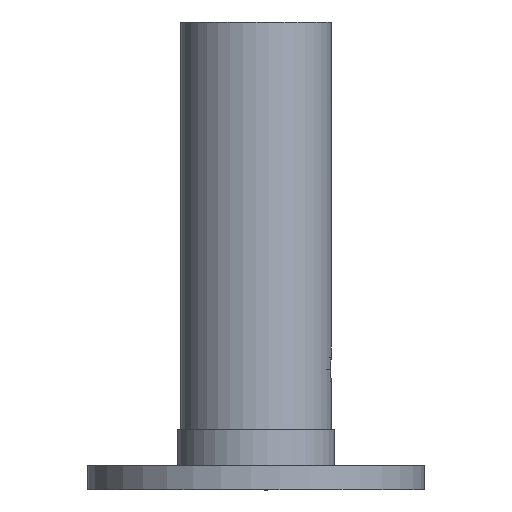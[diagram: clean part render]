
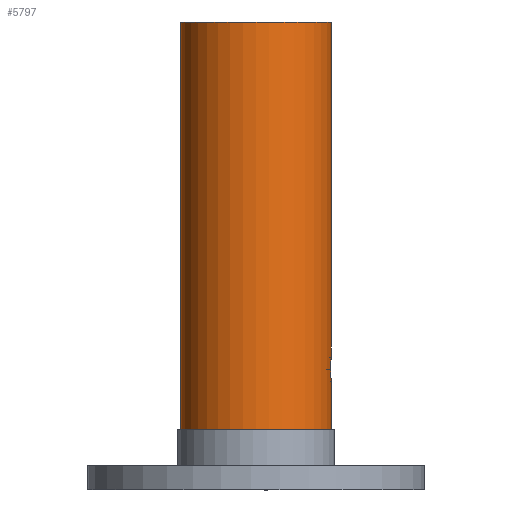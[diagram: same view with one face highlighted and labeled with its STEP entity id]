
A CAD part, left-side view. The second image highlights one B-rep face of the part: STEP entity #5797.
In plain terms, the highlighted cylindrical face has radius 12.5 mm (diameter 25 mm), a partial arc.
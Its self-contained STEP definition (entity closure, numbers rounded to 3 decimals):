
#61 = CARTESIAN_POINT ( 'NONE',  ( -301., 25., -4. ) ) ;
#206 = AXIS2_PLACEMENT_3D ( 'NONE', #5033, #5112, #4564 ) ;
#276 = B_SPLINE_CURVE_WITH_KNOTS ( 'NONE', 3,
 ( #4318, #4354, #6523, #5373, #2127, #985, #2062, #7042, #2615, #7105, #3743, #3841, #3254, #2712, #6012, #3223 ),
 .UNSPECIFIED., .F., .F.,
 ( 4, 2, 2, 2, 2, 2, 2, 4 ),
 ( 0.006, 0.006, 0.007, 0.007, 0.008, 0.009, 0.009, 0.01 ),
 .UNSPECIFIED. ) ;
#448 = ORIENTED_EDGE ( 'NONE', *, *, #7221, .F. ) ;
#784 = VECTOR ( 'NONE', #6106, 1000. ) ;
#788 = ORIENTED_EDGE ( 'NONE', *, *, #2609, .F. ) ;
#871 = DIRECTION ( 'NONE',  ( 0., 0., -1. ) ) ;
#876 = ORIENTED_EDGE ( 'NONE', *, *, #1171, .T. ) ;
#913 = VERTEX_POINT ( 'NONE', #3452 ) ;
#955 = CARTESIAN_POINT ( 'NONE',  ( -301., 0., 0. ) ) ;
#970 = CARTESIAN_POINT ( 'NONE',  ( -302.966, 0.156, -57.978 ) ) ;
#985 = CARTESIAN_POINT ( 'NONE',  ( -302.944, 0.152, -56.919 ) ) ;
#1106 = LINE ( 'NONE', #5560, #3765 ) ;
#1123 = CIRCLE ( 'NONE', #3952, 12.5 ) ;
#1128 = VERTEX_POINT ( 'NONE', #955 ) ;
#1146 = DIRECTION ( 'NONE',  ( 0., 0., -1. ) ) ;
#1171 = EDGE_CURVE ( 'NONE', #5182, #1362, #276, .T. ) ;
#1198 = CARTESIAN_POINT ( 'NONE',  ( -301., 0., -55.48 ) ) ;
#1201 = CARTESIAN_POINT ( 'NONE',  ( -301., 25., -67.5 ) ) ;
#1344 = EDGE_CURVE ( 'NONE', #3876, #1128, #4765, .T. ) ;
#1362 = VERTEX_POINT ( 'NONE', #1198 ) ;
#1528 = CARTESIAN_POINT ( 'NONE',  ( -301.45, 0.006, -59.482 ) ) ;
#1534 = CARTESIAN_POINT ( 'NONE',  ( -301., 0., 0. ) ) ;
#1634 = CARTESIAN_POINT ( 'NONE',  ( -302.822, 0.133, -58.406 ) ) ;
#1677 = DIRECTION ( 'NONE',  ( 0., 1., 0. ) ) ;
#1724 = EDGE_LOOP ( 'NONE', ( #448, #2173, #5069, #3305, #6478, #6710, #788, #3121, #876 ) ) ;
#2062 = CARTESIAN_POINT ( 'NONE',  ( -302.895, 0.144, -56.775 ) ) ;
#2127 = CARTESIAN_POINT ( 'NONE',  ( -303.01, 0.163, -57.22 ) ) ;
#2144 = CARTESIAN_POINT ( 'NONE',  ( -301.224, 0., -59.52 ) ) ;
#2173 = ORIENTED_EDGE ( 'NONE', *, *, #4030, .F. ) ;
#2183 = VECTOR ( 'NONE', #4867, 1000. ) ;
#2217 = CARTESIAN_POINT ( 'NONE',  ( -302.966, 0.156, -57.978 ) ) ;
#2263 = B_SPLINE_CURVE_WITH_KNOTS ( 'NONE', 3,
 ( #6030, #2144, #1528, #4976, #4338, #3308, #7190, #1634, #7153, #2217 ),
 .UNSPECIFIED., .F., .F.,
 ( 4, 2, 2, 2, 4 ),
 ( 0.003, 0.004, 0.005, 0.005, 0.006 ),
 .UNSPECIFIED. ) ;
#2295 = EDGE_CURVE ( 'NONE', #913, #6379, #1123, .T. ) ;
#2346 = VECTOR ( 'NONE', #4309, 1000. ) ;
#2559 = VERTEX_POINT ( 'NONE', #6651 ) ;
#2609 = EDGE_CURVE ( 'NONE', #2559, #913, #4409, .T. ) ;
#2615 = CARTESIAN_POINT ( 'NONE',  ( -302.683, 0.113, -56.369 ) ) ;
#2712 = CARTESIAN_POINT ( 'NONE',  ( -301.305, 0.003, -55.497 ) ) ;
#2747 = FACE_OUTER_BOUND ( 'NONE', #1724, .T. ) ;
#3011 = VERTEX_POINT ( 'NONE', #6197 ) ;
#3121 = ORIENTED_EDGE ( 'NONE', *, *, #5031, .T. ) ;
#3183 = LINE ( 'NONE', #1534, #6164 ) ;
#3223 = CARTESIAN_POINT ( 'NONE',  ( -301., 0., -55.48 ) ) ;
#3235 = AXIS2_PLACEMENT_3D ( 'NONE', #6554, #3810, #3257 ) ;
#3254 = CARTESIAN_POINT ( 'NONE',  ( -301.602, 0.014, -55.565 ) ) ;
#3257 = DIRECTION ( 'NONE',  ( 0., 1., 0. ) ) ;
#3305 = ORIENTED_EDGE ( 'NONE', *, *, #5360, .T. ) ;
#3308 = CARTESIAN_POINT ( 'NONE',  ( -302.426, 0.08, -58.951 ) ) ;
#3452 = CARTESIAN_POINT ( 'NONE',  ( -301., 0., -67.5 ) ) ;
#3684 = CARTESIAN_POINT ( 'NONE',  ( -301., 0., 0. ) ) ;
#3743 = CARTESIAN_POINT ( 'NONE',  ( -302.158, 0.051, -55.816 ) ) ;
#3765 = VECTOR ( 'NONE', #1146, 1000. ) ;
#3810 = DIRECTION ( 'NONE',  ( 0., 0., -1. ) ) ;
#3841 = CARTESIAN_POINT ( 'NONE',  ( -301.748, 0.022, -55.617 ) ) ;
#3876 = VERTEX_POINT ( 'NONE', #6112 ) ;
#3952 = AXIS2_PLACEMENT_3D ( 'NONE', #5528, #6647, #1677 ) ;
#3968 = EDGE_CURVE ( 'NONE', #5880, #6379, #4846, .T. ) ;
#4030 = EDGE_CURVE ( 'NONE', #1128, #3011, #3183, .T. ) ;
#4309 = DIRECTION ( 'NONE',  ( 0., 0., -1. ) ) ;
#4318 = CARTESIAN_POINT ( 'NONE',  ( -302.966, 0.156, -57.978 ) ) ;
#4338 = CARTESIAN_POINT ( 'NONE',  ( -302.074, 0.045, -59.226 ) ) ;
#4354 = CARTESIAN_POINT ( 'NONE',  ( -303.002, 0.161, -57.83 ) ) ;
#4409 = LINE ( 'NONE', #4916, #784 ) ;
#4564 = DIRECTION ( 'NONE',  ( 0., -1., 0. ) ) ;
#4765 = CIRCLE ( 'NONE', #206, 12.5 ) ;
#4846 = LINE ( 'NONE', #6994, #2346 ) ;
#4867 = DIRECTION ( 'NONE',  ( 0., 0., -1. ) ) ;
#4916 = CARTESIAN_POINT ( 'NONE',  ( -301., 0., 0. ) ) ;
#4959 = CYLINDRICAL_SURFACE ( 'NONE', #3235, 12.5 ) ;
#4976 = CARTESIAN_POINT ( 'NONE',  ( -301.873, 0.029, -59.336 ) ) ;
#5031 = EDGE_CURVE ( 'NONE', #2559, #5182, #2263, .T. ) ;
#5033 = CARTESIAN_POINT ( 'NONE',  ( -301., 12.5, 0. ) ) ;
#5069 = ORIENTED_EDGE ( 'NONE', *, *, #1344, .F. ) ;
#5112 = DIRECTION ( 'NONE',  ( 0., 0., 1. ) ) ;
#5182 = VERTEX_POINT ( 'NONE', #970 ) ;
#5360 = EDGE_CURVE ( 'NONE', #3876, #5880, #1106, .T. ) ;
#5373 = CARTESIAN_POINT ( 'NONE',  ( -303.025, 0.165, -57.371 ) ) ;
#5528 = CARTESIAN_POINT ( 'NONE',  ( -301., 12.5, -67.5 ) ) ;
#5560 = CARTESIAN_POINT ( 'NONE',  ( -301., 25., 0. ) ) ;
#5797 = ADVANCED_FACE ( 'NONE', ( #2747 ), #4959, .T. ) ;
#5880 = VERTEX_POINT ( 'NONE', #61 ) ;
#6012 = CARTESIAN_POINT ( 'NONE',  ( -301.154, 0., -55.48 ) ) ;
#6030 = CARTESIAN_POINT ( 'NONE',  ( -301., 0., -59.52 ) ) ;
#6106 = DIRECTION ( 'NONE',  ( 0., 0., -1. ) ) ;
#6112 = CARTESIAN_POINT ( 'NONE',  ( -301., 25., 0. ) ) ;
#6164 = VECTOR ( 'NONE', #871, 1000. ) ;
#6197 = CARTESIAN_POINT ( 'NONE',  ( -301., 0., -4. ) ) ;
#6379 = VERTEX_POINT ( 'NONE', #1201 ) ;
#6463 = LINE ( 'NONE', #3684, #2183 ) ;
#6478 = ORIENTED_EDGE ( 'NONE', *, *, #3968, .T. ) ;
#6523 = CARTESIAN_POINT ( 'NONE',  ( -303.021, 0.165, -57.675 ) ) ;
#6554 = CARTESIAN_POINT ( 'NONE',  ( -301., 12.5, 0. ) ) ;
#6647 = DIRECTION ( 'NONE',  ( 0., 0., -1. ) ) ;
#6651 = CARTESIAN_POINT ( 'NONE',  ( -301., 0., -59.52 ) ) ;
#6710 = ORIENTED_EDGE ( 'NONE', *, *, #2295, .F. ) ;
#6994 = CARTESIAN_POINT ( 'NONE',  ( -301., 25., 0. ) ) ;
#7042 = CARTESIAN_POINT ( 'NONE',  ( -302.765, 0.125, -56.501 ) ) ;
#7105 = CARTESIAN_POINT ( 'NONE',  ( -302.401, 0.077, -56.012 ) ) ;
#7153 = CARTESIAN_POINT ( 'NONE',  ( -302.912, 0.147, -58.197 ) ) ;
#7190 = CARTESIAN_POINT ( 'NONE',  ( -302.58, 0.1, -58.782 ) ) ;
#7221 = EDGE_CURVE ( 'NONE', #3011, #1362, #6463, .T. ) ;
